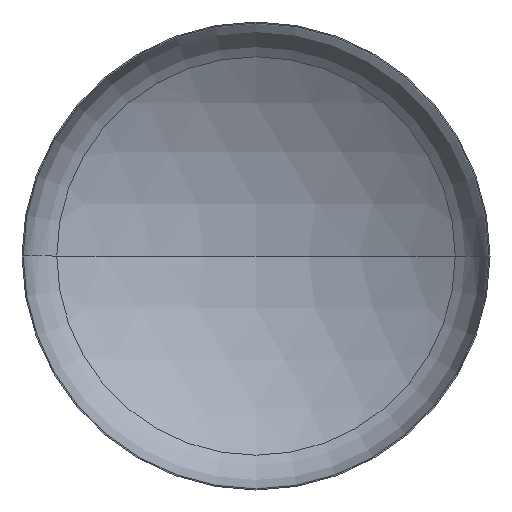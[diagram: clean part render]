
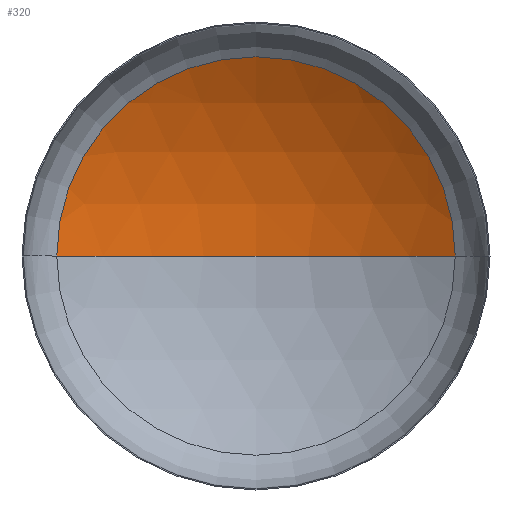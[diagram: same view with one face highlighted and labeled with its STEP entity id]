
A CAD part, front view. The second image highlights one B-rep face of the part: STEP entity #320.
In plain terms, the highlighted spherical face has radius 5200 mm.
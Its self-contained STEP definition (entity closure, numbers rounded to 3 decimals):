
#12 = DIRECTION ( 'NONE',  ( 1., 0., 0. ) ) ;
#13 = CARTESIAN_POINT ( 'NONE',  ( 0., 891.655, 0. ) ) ;
#23 = AXIS2_PLACEMENT_3D ( 'NONE', #120, #269, #148 ) ;
#46 = VERTEX_POINT ( 'NONE', #348 ) ;
#76 = EDGE_LOOP ( 'NONE', ( #152, #98, #85 ) ) ;
#85 = ORIENTED_EDGE ( 'NONE', *, *, #158, .T. ) ;
#87 = AXIS2_PLACEMENT_3D ( 'NONE', #295, #297, #190 ) ;
#88 = VERTEX_POINT ( 'NONE', #343 ) ;
#92 = AXIS2_PLACEMENT_3D ( 'NONE', #318, #311, #310 ) ;
#98 = ORIENTED_EDGE ( 'NONE', *, *, #160, .T. ) ;
#100 = AXIS2_PLACEMENT_3D ( 'NONE', #13, #217, #12 ) ;
#120 = CARTESIAN_POINT ( 'NONE',  ( 0., -3510.949, 0. ) ) ;
#138 = VERTEX_POINT ( 'NONE', #223 ) ;
#148 = DIRECTION ( 'NONE',  ( -1., 0., 0. ) ) ;
#152 = ORIENTED_EDGE ( 'NONE', *, *, #161, .F. ) ;
#158 = EDGE_CURVE ( 'NONE', #46, #88, #231, .T. ) ;
#160 = EDGE_CURVE ( 'NONE', #138, #46, #292, .T. ) ;
#161 = EDGE_CURVE ( 'NONE', #138, #88, #390, .T. ) ;
#190 = DIRECTION ( 'NONE',  ( 1., 0., 0. ) ) ;
#217 = DIRECTION ( 'NONE',  ( 0., -1., 0. ) ) ;
#223 = CARTESIAN_POINT ( 'NONE',  ( 0., 1689.051, 0. ) ) ;
#231 = CIRCLE ( 'NONE', #100, 2767.143 ) ;
#239 = FACE_OUTER_BOUND ( 'NONE', #76, .T. ) ;
#269 = DIRECTION ( 'NONE',  ( 0., 0., -1. ) ) ;
#292 = CIRCLE ( 'NONE', #92, 5200. ) ;
#295 = CARTESIAN_POINT ( 'NONE',  ( 0., -3510.949, 0. ) ) ;
#297 = DIRECTION ( 'NONE',  ( 0., 0., 1. ) ) ;
#310 = DIRECTION ( 'NONE',  ( -1., 0., 0. ) ) ;
#311 = DIRECTION ( 'NONE',  ( 0., 0., -1. ) ) ;
#318 = CARTESIAN_POINT ( 'NONE',  ( 0., -3510.949, 0. ) ) ;
#320 = ADVANCED_FACE ( 'NONE', ( #239 ), #395, .F. ) ;
#343 = CARTESIAN_POINT ( 'NONE',  ( -2767.143, 891.655, 0. ) ) ;
#348 = CARTESIAN_POINT ( 'NONE',  ( 2767.143, 891.655, 0. ) ) ;
#390 = CIRCLE ( 'NONE', #87, 5200. ) ;
#395 = SPHERICAL_SURFACE ( 'NONE', #23, 5200. ) ;
